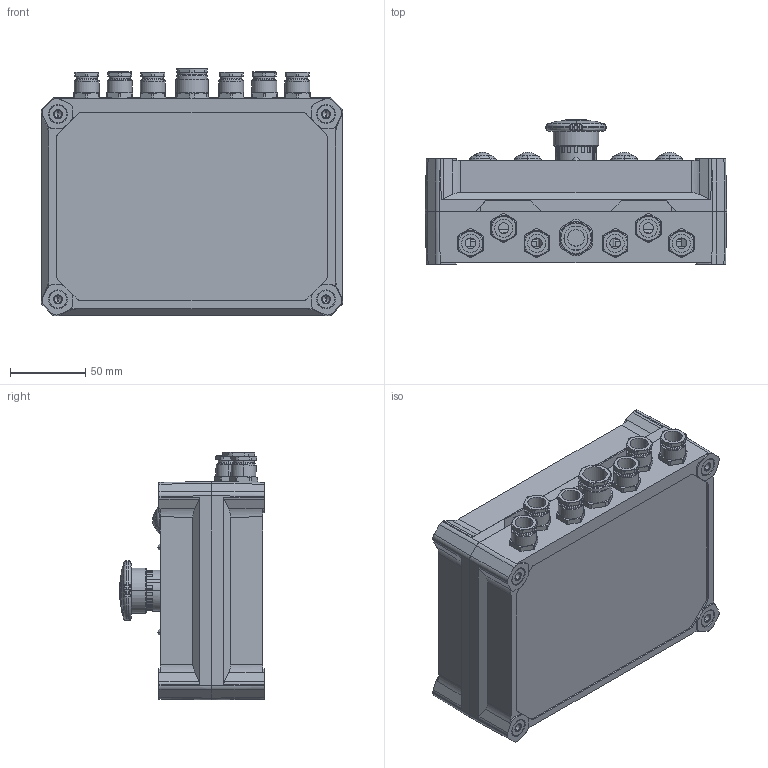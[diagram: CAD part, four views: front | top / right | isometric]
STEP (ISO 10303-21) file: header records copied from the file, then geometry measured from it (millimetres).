
FILE_DESCRIPTION (( 'STEP AP203' ), '1' );
FILE_NAME ('S-1208F.STEP', '2018-05-25T12:26:05', ( '' ), ( '' ), 'SwSTEP 2.0', 'SolidWorks 2018', '' );
FILE_SCHEMA (( 'CONFIG_CONTROL_DESIGN' ));
Products named in the file (1): S-1208F
Bounding box: 200 x 96.15 x 164.57 mm (x, y, z)
Volume: 1000896.1 mm3; surface area: 254836.3 mm2
Topology: 2 solids, 33 shells, 3374 faces, 8578 edges, 5520 vertices
Faces by surface type: plane 1772, cylinder 831, cone 321, torus 224, bspline 154, sphere 72
Entity records: 111361 total; most frequent: CARTESIAN_POINT 30439, ORIENTED_EDGE 17068, DIRECTION 16453, EDGE_CURVE 8534, AXIS2_PLACEMENT_3D 5819, VERTEX_POINT 5520, VECTOR 4815, LINE 4815
